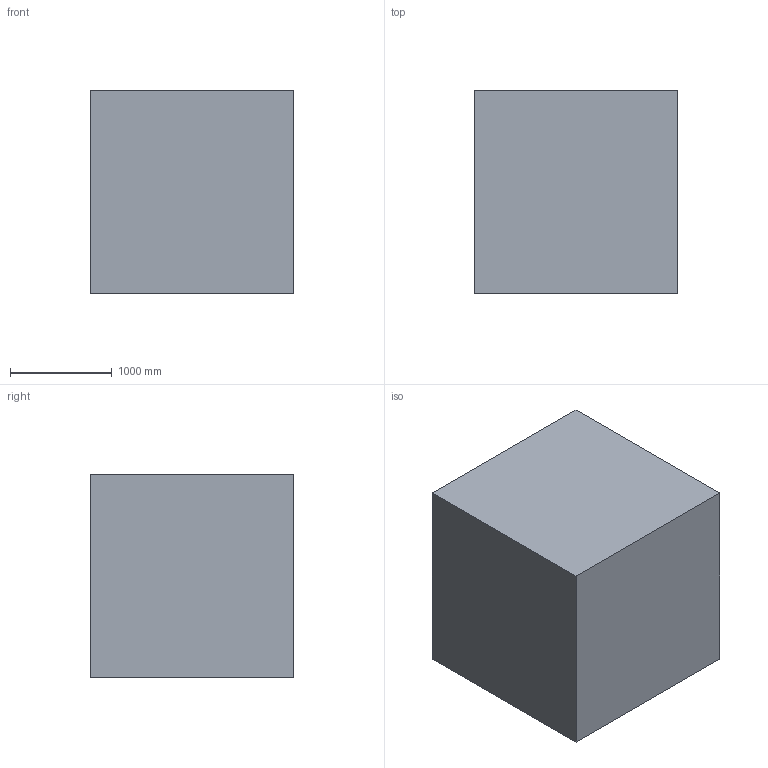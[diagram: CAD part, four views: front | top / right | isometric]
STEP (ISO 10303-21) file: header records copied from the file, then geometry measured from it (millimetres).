
FILE_DESCRIPTION(('Open CASCADE Model'),'2;1');
FILE_NAME('Open CASCADE Shape Model','2019-04-08T11:10:39',('Author'),( 'Open CASCADE'),'Open CASCADE STEP processor 6.9','Open CASCADE 6.9' ,'Unknown');
FILE_SCHEMA(('AUTOMOTIVE_DESIGN { 1 0 10303 214 1 1 1 1 }'));
Length unit declared in the file: millimetre
Products named in the file (1): XFlow STEP translator 2
Bounding box: 2000 x 2000 x 2000 mm (x, y, z)
Surface area: 24000000 mm2 (no closed solid volume)
Topology: 0 solids, 1 shells, 6 faces, 12 edges, 8 vertices
Faces by surface type: plane 6
Entity records: 322 total; most frequent: CARTESIAN_POINT 51, DIRECTION 50, LINE 36, VECTOR 36, ORIENTED_EDGE 24, PCURVE 24, DEFINITIONAL_REPRESENTATION 24, EDGE_CURVE 12
